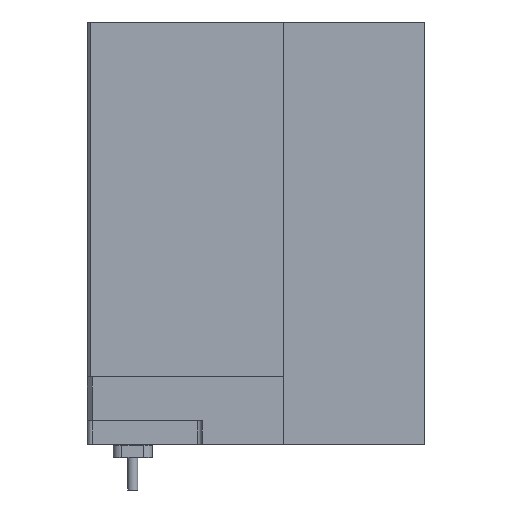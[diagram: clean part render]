
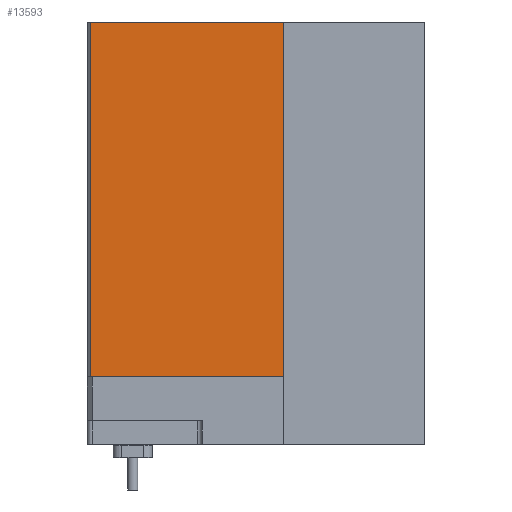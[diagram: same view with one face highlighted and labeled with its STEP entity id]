
A CAD part, left-side view. The second image highlights one B-rep face of the part: STEP entity #13593.
In plain terms, the highlighted planar face has unit normal (-1, 0, 0) as drawn and (0, 0, -1) by its records, which use the part's own axes.
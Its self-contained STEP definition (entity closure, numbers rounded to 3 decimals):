
#1327 = ORIENTED_EDGE ( 'NONE', *, *, #10257, .F. ) ;
#2446 = DIRECTION ( 'NONE',  ( 0., 1., 0. ) ) ;
#2899 = CARTESIAN_POINT ( 'NONE',  ( -52.4, -57.1, -25. ) ) ;
#3079 = ORIENTED_EDGE ( 'NONE', *, *, #23865, .T. ) ;
#3280 = EDGE_CURVE ( 'NONE', #16723, #17673, #16977, .T. ) ;
#3317 = DIRECTION ( 'NONE',  ( 0., 1., 0. ) ) ;
#4850 = CARTESIAN_POINT ( 'NONE',  ( -52.4, -58.1, -25. ) ) ;
#4964 = AXIS2_PLACEMENT_3D ( 'NONE', #10390, #6712, #12268 ) ;
#6608 = EDGE_CURVE ( 'NONE', #16723, #16042, #22466, .T. ) ;
#6619 = DIRECTION ( 'NONE',  ( -1., 0., 0. ) ) ;
#6712 = DIRECTION ( 'NONE',  ( 0., 0., -1. ) ) ;
#10257 = EDGE_CURVE ( 'NONE', #17673, #13233, #12423, .T. ) ;
#10390 = CARTESIAN_POINT ( 'NONE',  ( -52.4, -58.1, -25. ) ) ;
#11805 = ORIENTED_EDGE ( 'NONE', *, *, #3280, .F. ) ;
#12224 = LINE ( 'NONE', #4850, #20033 ) ;
#12268 = DIRECTION ( 'NONE',  ( -1., 0., 0. ) ) ;
#12375 = ORIENTED_EDGE ( 'NONE', *, *, #6608, .T. ) ;
#12423 = LINE ( 'NONE', #23574, #18772 ) ;
#13233 = VERTEX_POINT ( 'NONE', #17045 ) ;
#13392 = CARTESIAN_POINT ( 'NONE',  ( 52.4, -57.1, -25. ) ) ;
#13593 = ADVANCED_FACE ( 'NONE', ( #16831 ), #14053, .T. ) ;
#14053 = PLANE ( 'NONE',  #4964 ) ;
#16042 = VERTEX_POINT ( 'NONE', #21748 ) ;
#16269 = DIRECTION ( 'NONE',  ( -1., 0., 0. ) ) ;
#16308 = CARTESIAN_POINT ( 'NONE',  ( 52.4, -58.1, -25. ) ) ;
#16723 = VERTEX_POINT ( 'NONE', #13392 ) ;
#16831 = FACE_OUTER_BOUND ( 'NONE', #21319, .T. ) ;
#16977 = LINE ( 'NONE', #16308, #17828 ) ;
#17045 = CARTESIAN_POINT ( 'NONE',  ( -52.4, 0., -25. ) ) ;
#17673 = VERTEX_POINT ( 'NONE', #23193 ) ;
#17828 = VECTOR ( 'NONE', #3317, 1000. ) ;
#18772 = VECTOR ( 'NONE', #16269, 1000. ) ;
#20033 = VECTOR ( 'NONE', #2446, 1000. ) ;
#21319 = EDGE_LOOP ( 'NONE', ( #11805, #12375, #3079, #1327 ) ) ;
#21748 = CARTESIAN_POINT ( 'NONE',  ( -52.4, -57.1, -25. ) ) ;
#22466 = LINE ( 'NONE', #2899, #22765 ) ;
#22765 = VECTOR ( 'NONE', #6619, 1000. ) ;
#23193 = CARTESIAN_POINT ( 'NONE',  ( 52.4, 0., -25. ) ) ;
#23574 = CARTESIAN_POINT ( 'NONE',  ( -52.4, 0., -25. ) ) ;
#23865 = EDGE_CURVE ( 'NONE', #16042, #13233, #12224, .T. ) ;
